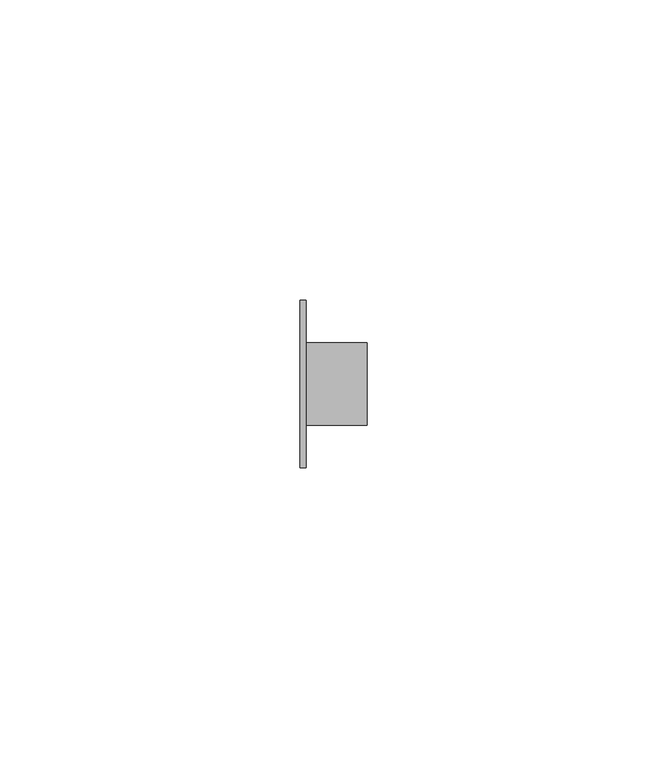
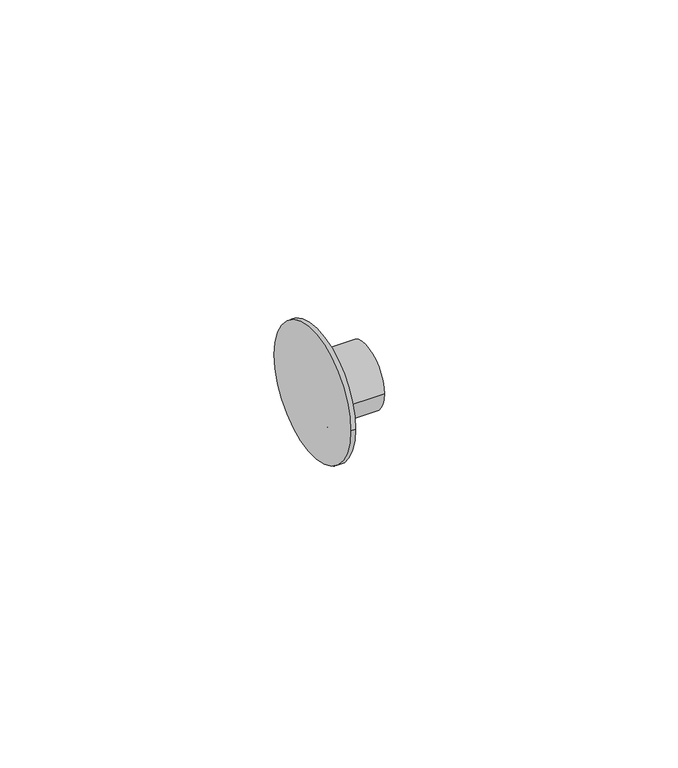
"""IFC4 building model written with IfcOpenShell, lengths in millimetres: pipe fitting geometry, Bucha de redução reta - Soldada - CU : Padrão."""

from ifc_helpers import new_model, si_unit, frame, origin, place, context, project, spatial, circle_curve, source, transform, mapped, element, save
from ifc_brep_helpers import plane_surface, cylinder_surface, advanced_brep


def pipe_fitting_5f661cd3(model_context):
    return source(origin(), model_context, "Body", "AdvancedBrep", [
        advanced_brep(
        [(0.0, -13.97, 0.0), (0.0, 13.97, 0.0), (1.0, -13.97, 0.0), (1.0, 13.97, 0.0), (1.0, -6.877, 0.0), (1.0, 6.877, 0.0), (11.169, -6.877, 0.0), (11.169, 6.877, 0.0)],
        [
            (0, 1, circle_curve(frame((0.0, 0.0, 0.0), z_axis=(-1.0, 0.0, 0.0), x_axis=(0.0, 1.0, 0.0)), 13.97)),
            (1, 0, circle_curve(frame((0.0, 0.0, 0.0), z_axis=(-1.0, 0.0, 0.0), x_axis=(0.0, 1.0, 0.0)), 13.97)),
            (2, 3, circle_curve(frame((1.0, 0.0, 0.0), z_axis=(1.0, 0.0, 0.0), x_axis=(0.0, 1.0, 0.0)), 13.97)),
            (3, 2, circle_curve(frame((1.0, 0.0, 0.0), z_axis=(1.0, 0.0, 0.0), x_axis=(0.0, 1.0, 0.0)), 13.97)),
            (4, 5, circle_curve(frame((1.0, 0.0, 0.0), z_axis=(-1.0, 0.0, 0.0), x_axis=(0.0, 1.0, 0.0)), 6.877)),
            (5, 4, circle_curve(frame((1.0, 0.0, 0.0), z_axis=(-1.0, 0.0, 0.0), x_axis=(0.0, 1.0, 0.0)), 6.877)),
            (0, 2),
            (3, 1),
            (6, 7, circle_curve(frame((11.169, 0.0, 0.0), z_axis=(1.0, 0.0, 0.0), x_axis=(0.0, 1.0, 0.0)), 6.877)),
            (7, 6, circle_curve(frame((11.169, 0.0, 0.0), z_axis=(1.0, 0.0, 0.0), x_axis=(0.0, 1.0, 0.0)), 6.877)),
            (7, 5),
            (4, 6),
        ],
        [
            plane_surface(frame((0.0, 0.0, 0.0), z_axis=(-1.0, 0.0, 0.0), x_axis=(0.0, 0.0, 1.0))),
            plane_surface(frame((1.0, 0.0, 0.0), z_axis=(1.0, 0.0, 0.0), x_axis=(0.0, 0.0, 1.0))),
            cylinder_surface(frame((0.0, 0.0, 0.0), z_axis=(-1.0, 0.0, 0.0), x_axis=(0.0, 1.0, 0.0)), 13.97),
            plane_surface(frame((11.169, 0.0, 0.0), z_axis=(1.0, 0.0, 0.0), x_axis=(0.0, 0.0, 1.0))),
            cylinder_surface(frame((1.0, 0.0, 0.0), z_axis=(-1.0, 0.0, 0.0), x_axis=(0.0, 1.0, 0.0)), 6.877),
        ],
        [
            (0, [[1, 2]]),
            (1, [[3, 4], [5, 6]]),
            (2, [[-1, 7, -4, 8]]),
            (2, [[-2, -8, -3, -7]]),
            (3, [[9, 10]]),
            (4, [[-10, 11, -5, 12]]),
            (4, [[-9, -12, -6, -11]]),
        ],
    ),
    ])


if __name__ == "__main__":
    model = new_model("IFC4")
    model_context = context("Model", 3, world=origin())
    ifc_project = project(units=[si_unit("LENGTHUNIT", "METRE", prefix="MILLI")], contexts=[model_context])
    site = spatial("IfcSite", under=ifc_project)
    building = spatial("IfcBuilding", under=site)
    placement = place(None, origin())
    pipe_fitting_shape = pipe_fitting_5f661cd3(model_context)
    element("IfcPipeFitting", 1, ObjectType="Bucha de redução reta - Soldada - CU : Padrão", at=placement, inside=building, context=model_context, shape_type="MappedRepresentation", body=[
        mapped(pipe_fitting_shape, transform((0.0, 0.0, 0.0), x_axis=(1.0, 0.0, 0.0), y_axis=(0.0, 1.0, 0.0), z_axis=(0.0, 0.0, 1.0))),
    ])
    save(model, "model.ifc")
